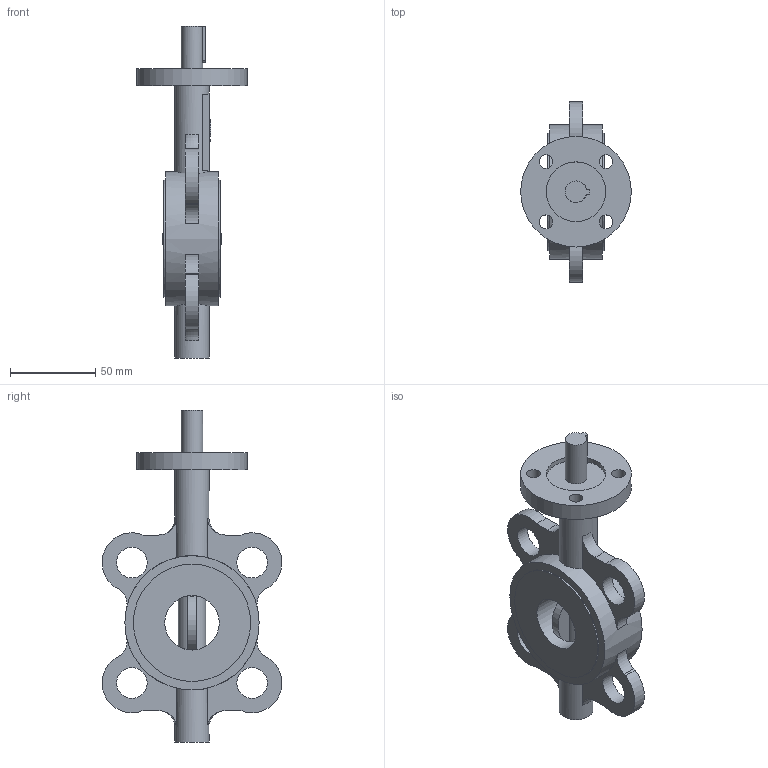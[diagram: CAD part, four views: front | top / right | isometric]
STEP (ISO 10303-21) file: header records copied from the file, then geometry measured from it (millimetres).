
FILE_DESCRIPTION(('STEP AP203'), '1');
FILE_NAME('青蜮铕 017W.YS_DN32', '', ('UNSPECIFIED'), ('UNSPECIFIED'), 'ASCON STEP Converter 1.6', 'ASCON Math Kernel', '');
FILE_SCHEMA(('CONFIG_CONTROL_DESIGN'));
Length unit declared in the file: millimetre
Bounding box: 65 x 105.65 x 195 mm (x, y, z)
Volume: 224926.5 mm3; surface area: 46410.6 mm2
Topology: 1 solids, 1 shells, 89 faces, 220 edges, 146 vertices
Faces by surface type: plane 48, cylinder 37, torus 4
Full cylindrical faces by diameter (mm): 8 x4, 12.6 x1, 16 x1, 18 x4, 20 x2, 32 x1, 35 x1, 65 x1, 68.9 x2, 78.9 x1
Entity records: 4585 total; most frequent: CARTESIAN_POINT 1693, DIRECTION 452, ORIENTED_EDGE 404, EDGE_CURVE 202, AXIS2_PLACEMENT_3D 180, VERTEX_POINT 146, EDGE_LOOP 140, FACE_BOUND 107
